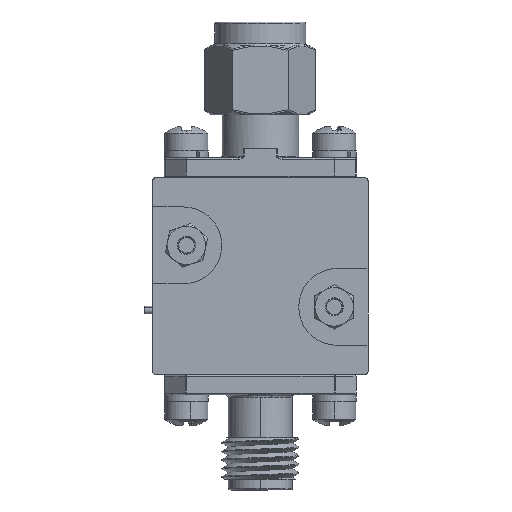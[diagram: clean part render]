
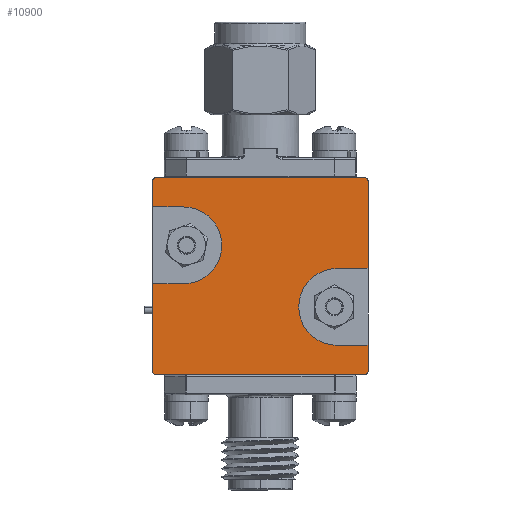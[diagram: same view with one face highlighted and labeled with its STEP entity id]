
A CAD part, front view. The second image highlights one B-rep face of the part: STEP entity #10900.
In plain terms, the highlighted planar face has unit normal (0, -1, 0).
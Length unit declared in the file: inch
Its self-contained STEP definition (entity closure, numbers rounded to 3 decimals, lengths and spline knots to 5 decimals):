
#905 = EDGE_CURVE ( 'NONE', #26226, #5301, #26615, .T. ) ;
#1313 = CIRCLE ( 'NONE', #41584, 0.01 ) ;
#1654 = CARTESIAN_POINT ( 'NONE',  ( 0.69, 0., 0.63 ) ) ;
#2062 = LINE ( 'NONE', #50143, #30675 ) ;
#2528 = EDGE_CURVE ( 'NONE', #24714, #46638, #11382, .T. ) ;
#3036 = CARTESIAN_POINT ( 'NONE',  ( 0.1, 0., 0.545 ) ) ;
#3086 = EDGE_CURVE ( 'NONE', #5341, #41849, #32990, .T. ) ;
#3553 = VERTEX_POINT ( 'NONE', #15098 ) ;
#5301 = VERTEX_POINT ( 'NONE', #32265 ) ;
#5341 = VERTEX_POINT ( 'NONE', #41202 ) ;
#5406 = DIRECTION ( 'NONE',  ( 1., 0., 0. ) ) ;
#5721 = CIRCLE ( 'NONE', #29134, 0.01 ) ;
#6719 = EDGE_CURVE ( 'NONE', #24784, #3553, #8540, .T. ) ;
#7405 = EDGE_CURVE ( 'NONE', #11848, #46638, #11697, .T. ) ;
#7434 = DIRECTION ( 'NONE',  ( 0., -1., 0. ) ) ;
#7595 = DIRECTION ( 'NONE',  ( 0., -1., 0. ) ) ;
#8540 = LINE ( 'NONE', #12485, #40574 ) ;
#9520 = EDGE_CURVE ( 'NONE', #41849, #50157, #35720, .T. ) ;
#9643 = VERTEX_POINT ( 'NONE', #29340 ) ;
#10398 = DIRECTION ( 'NONE',  ( 0., 0., 1. ) ) ;
#10403 = ORIENTED_EDGE ( 'NONE', *, *, #45538, .T. ) ;
#10566 = DIRECTION ( 'NONE',  ( 0., -1., 0. ) ) ;
#10900 = ADVANCED_FACE ( 'NONE', ( #31355 ), #38999, .F. ) ;
#11005 = ORIENTED_EDGE ( 'NONE', *, *, #21793, .F. ) ;
#11382 = LINE ( 'NONE', #42893, #35396 ) ;
#11587 = ORIENTED_EDGE ( 'NONE', *, *, #905, .T. ) ;
#11697 = CIRCLE ( 'NONE', #13405, 0.01 ) ;
#11848 = VERTEX_POINT ( 'NONE', #23747 ) ;
#12485 = CARTESIAN_POINT ( 'NONE',  ( 0.7, 0., 0.64 ) ) ;
#12544 = CARTESIAN_POINT ( 'NONE',  ( 0.7, 0., 0.095 ) ) ;
#13054 = CARTESIAN_POINT ( 'NONE',  ( 0., 0., 0.295 ) ) ;
#13186 = DIRECTION ( 'NONE',  ( 0., -1., 0. ) ) ;
#13405 = AXIS2_PLACEMENT_3D ( 'NONE', #43287, #7595, #51451 ) ;
#13644 = CARTESIAN_POINT ( 'NONE',  ( 0., 0., 0.63 ) ) ;
#13754 = DIRECTION ( 'NONE',  ( 0., 0., 1. ) ) ;
#14898 = VECTOR ( 'NONE', #21736, 39.37008 ) ;
#15098 = CARTESIAN_POINT ( 'NONE',  ( 0.7, 0., 0.345 ) ) ;
#15130 = CARTESIAN_POINT ( 'NONE',  ( 0., 0., 0.64 ) ) ;
#16220 = VERTEX_POINT ( 'NONE', #49466 ) ;
#16674 = CARTESIAN_POINT ( 'NONE',  ( 0.69, 0., 0.64 ) ) ;
#17027 = VERTEX_POINT ( 'NONE', #50771 ) ;
#17520 = ORIENTED_EDGE ( 'NONE', *, *, #30780, .T. ) ;
#18093 = DIRECTION ( 'NONE',  ( 1., 0., 0. ) ) ;
#19153 = ORIENTED_EDGE ( 'NONE', *, *, #35853, .T. ) ;
#19414 = VERTEX_POINT ( 'NONE', #40954 ) ;
#19445 = LINE ( 'NONE', #19945, #24446 ) ;
#19453 = DIRECTION ( 'NONE',  ( -1., 0., 0. ) ) ;
#19740 = VECTOR ( 'NONE', #50758, 39.37008 ) ;
#19945 = CARTESIAN_POINT ( 'NONE',  ( 0., 0., 0.64 ) ) ;
#20211 = ORIENTED_EDGE ( 'NONE', *, *, #27873, .F. ) ;
#20530 = CARTESIAN_POINT ( 'NONE',  ( 0.01, 0., 0.63 ) ) ;
#21736 = DIRECTION ( 'NONE',  ( 1., 0., 0. ) ) ;
#21793 = EDGE_CURVE ( 'NONE', #9643, #27175, #45821, .T. ) ;
#23218 = DIRECTION ( 'NONE',  ( 0., 0., -1. ) ) ;
#23255 = DIRECTION ( 'NONE',  ( 0., -1., 0. ) ) ;
#23465 = DIRECTION ( 'NONE',  ( 0., 0., -1. ) ) ;
#23747 = CARTESIAN_POINT ( 'NONE',  ( 0.69, 0., 0. ) ) ;
#24375 = ORIENTED_EDGE ( 'NONE', *, *, #3086, .F. ) ;
#24416 = DIRECTION ( 'NONE',  ( 0., 0., -1. ) ) ;
#24446 = VECTOR ( 'NONE', #24416, 39.37008 ) ;
#24714 = VERTEX_POINT ( 'NONE', #12544 ) ;
#24784 = VERTEX_POINT ( 'NONE', #46404 ) ;
#25016 = VECTOR ( 'NONE', #5406, 39.37008 ) ;
#25059 = LINE ( 'NONE', #41035, #45331 ) ;
#25173 = VERTEX_POINT ( 'NONE', #50244 ) ;
#25284 = ORIENTED_EDGE ( 'NONE', *, *, #25520, .T. ) ;
#25520 = EDGE_CURVE ( 'NONE', #25173, #16220, #1313, .T. ) ;
#26226 = VERTEX_POINT ( 'NONE', #13644 ) ;
#26417 = AXIS2_PLACEMENT_3D ( 'NONE', #20530, #13186, #40751 ) ;
#26615 = LINE ( 'NONE', #42601, #19740 ) ;
#27175 = VERTEX_POINT ( 'NONE', #16674 ) ;
#27292 = VECTOR ( 'NONE', #34795, 39.37008 ) ;
#27873 = EDGE_CURVE ( 'NONE', #17027, #19414, #51796, .T. ) ;
#27996 = DIRECTION ( 'NONE',  ( 0., 0., -1. ) ) ;
#28166 = AXIS2_PLACEMENT_3D ( 'NONE', #51527, #7434, #23465 ) ;
#29041 = ORIENTED_EDGE ( 'NONE', *, *, #41991, .F. ) ;
#29134 = AXIS2_PLACEMENT_3D ( 'NONE', #1654, #45756, #13754 ) ;
#29340 = CARTESIAN_POINT ( 'NONE',  ( 0.01, 0., 0.64 ) ) ;
#30675 = VECTOR ( 'NONE', #18093, 39.37008 ) ;
#30780 = EDGE_CURVE ( 'NONE', #5341, #25173, #19445, .T. ) ;
#31109 = DIRECTION ( 'NONE',  ( 0., 1., 0. ) ) ;
#31355 = FACE_OUTER_BOUND ( 'NONE', #51903, .T. ) ;
#31373 = ORIENTED_EDGE ( 'NONE', *, *, #48778, .T. ) ;
#31726 = EDGE_CURVE ( 'NONE', #3553, #17027, #42810, .T. ) ;
#32265 = CARTESIAN_POINT ( 'NONE',  ( 0., 0., 0.545 ) ) ;
#32486 = AXIS2_PLACEMENT_3D ( 'NONE', #38422, #10566, #34958 ) ;
#32886 = DIRECTION ( 'NONE',  ( 1., 0., 0. ) ) ;
#32990 = LINE ( 'NONE', #13054, #14898 ) ;
#33481 = CARTESIAN_POINT ( 'NONE',  ( 0., 0., 0.64 ) ) ;
#34795 = DIRECTION ( 'NONE',  ( -1., 0., 0. ) ) ;
#34958 = DIRECTION ( 'NONE',  ( 0., 0., -1. ) ) ;
#35100 = ORIENTED_EDGE ( 'NONE', *, *, #7405, .T. ) ;
#35333 = CARTESIAN_POINT ( 'NONE',  ( 0.1, 0., 0.545 ) ) ;
#35396 = VECTOR ( 'NONE', #23218, 39.37008 ) ;
#35720 = CIRCLE ( 'NONE', #28166, 0.125 ) ;
#35853 = EDGE_CURVE ( 'NONE', #16220, #11848, #2062, .T. ) ;
#38333 = ORIENTED_EDGE ( 'NONE', *, *, #31726, .F. ) ;
#38422 = CARTESIAN_POINT ( 'NONE',  ( 0.6, 0., 0.22 ) ) ;
#38439 = EDGE_CURVE ( 'NONE', #19414, #24714, #25059, .T. ) ;
#38999 = PLANE ( 'NONE',  #48685 ) ;
#39617 = ORIENTED_EDGE ( 'NONE', *, *, #2528, .F. ) ;
#40574 = VECTOR ( 'NONE', #27996, 39.37008 ) ;
#40751 = DIRECTION ( 'NONE',  ( 0., 0., 1. ) ) ;
#40954 = CARTESIAN_POINT ( 'NONE',  ( 0.6, 0., 0.095 ) ) ;
#41035 = CARTESIAN_POINT ( 'NONE',  ( 0.6, 0., 0.095 ) ) ;
#41202 = CARTESIAN_POINT ( 'NONE',  ( 0., 0., 0.295 ) ) ;
#41584 = AXIS2_PLACEMENT_3D ( 'NONE', #47414, #23255, #48183 ) ;
#41798 = ORIENTED_EDGE ( 'NONE', *, *, #6719, .F. ) ;
#41849 = VERTEX_POINT ( 'NONE', #50607 ) ;
#41991 = EDGE_CURVE ( 'NONE', #50157, #5301, #47448, .T. ) ;
#42601 = CARTESIAN_POINT ( 'NONE',  ( 0., 0., 0.64 ) ) ;
#42810 = LINE ( 'NONE', #50953, #51350 ) ;
#42893 = CARTESIAN_POINT ( 'NONE',  ( 0.7, 0., 0.64 ) ) ;
#43287 = CARTESIAN_POINT ( 'NONE',  ( 0.69, 0., 0.01 ) ) ;
#44777 = ORIENTED_EDGE ( 'NONE', *, *, #9520, .F. ) ;
#44784 = CIRCLE ( 'NONE', #26417, 0.01 ) ;
#45331 = VECTOR ( 'NONE', #32886, 39.37008 ) ;
#45538 = EDGE_CURVE ( 'NONE', #24784, #27175, #5721, .T. ) ;
#45756 = DIRECTION ( 'NONE',  ( 0., -1., 0. ) ) ;
#45821 = LINE ( 'NONE', #33481, #25016 ) ;
#46404 = CARTESIAN_POINT ( 'NONE',  ( 0.7, 0., 0.63 ) ) ;
#46408 = ORIENTED_EDGE ( 'NONE', *, *, #38439, .F. ) ;
#46638 = VERTEX_POINT ( 'NONE', #50960 ) ;
#47414 = CARTESIAN_POINT ( 'NONE',  ( 0.01, 0., 0.01 ) ) ;
#47448 = LINE ( 'NONE', #35333, #27292 ) ;
#48183 = DIRECTION ( 'NONE',  ( 0., 0., 1. ) ) ;
#48685 = AXIS2_PLACEMENT_3D ( 'NONE', #15130, #31109, #10398 ) ;
#48778 = EDGE_CURVE ( 'NONE', #9643, #26226, #44784, .T. ) ;
#49466 = CARTESIAN_POINT ( 'NONE',  ( 0.01, 0., 0. ) ) ;
#50143 = CARTESIAN_POINT ( 'NONE',  ( 0., 0., 0. ) ) ;
#50157 = VERTEX_POINT ( 'NONE', #3036 ) ;
#50244 = CARTESIAN_POINT ( 'NONE',  ( 0., 0., 0.01 ) ) ;
#50607 = CARTESIAN_POINT ( 'NONE',  ( 0.1, 0., 0.295 ) ) ;
#50758 = DIRECTION ( 'NONE',  ( 0., 0., -1. ) ) ;
#50771 = CARTESIAN_POINT ( 'NONE',  ( 0.6, 0., 0.345 ) ) ;
#50953 = CARTESIAN_POINT ( 'NONE',  ( 0.7, 0., 0.345 ) ) ;
#50960 = CARTESIAN_POINT ( 'NONE',  ( 0.7, 0., 0.01 ) ) ;
#51350 = VECTOR ( 'NONE', #19453, 39.37008 ) ;
#51451 = DIRECTION ( 'NONE',  ( 0., 0., 1. ) ) ;
#51527 = CARTESIAN_POINT ( 'NONE',  ( 0.1, 0., 0.42 ) ) ;
#51796 = CIRCLE ( 'NONE', #32486, 0.125 ) ;
#51903 = EDGE_LOOP ( 'NONE', ( #20211, #38333, #41798, #10403, #11005, #31373, #11587, #29041, #44777, #24375, #17520, #25284, #19153, #35100, #39617, #46408 ) ) ;
